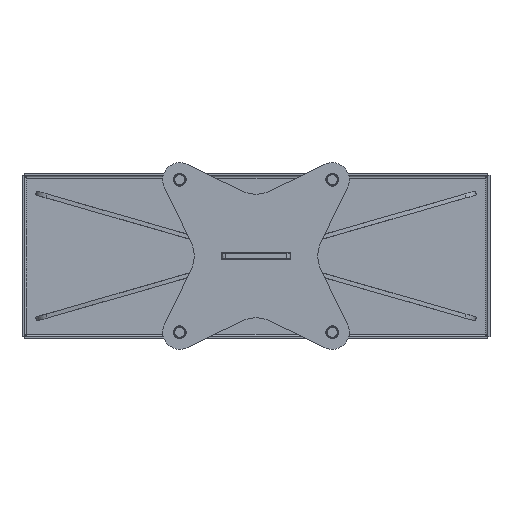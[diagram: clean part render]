
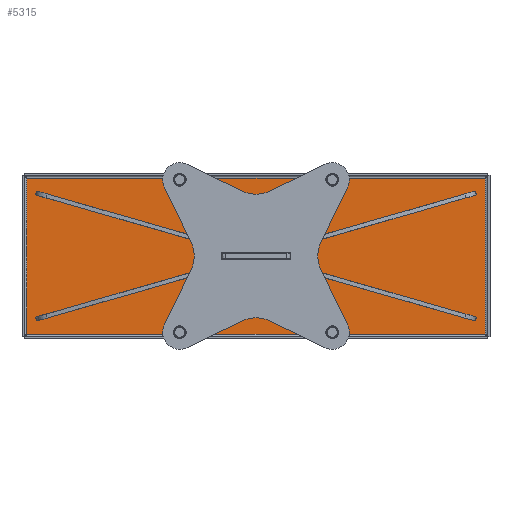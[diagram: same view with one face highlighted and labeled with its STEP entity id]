
A CAD part, front view. The second image highlights one B-rep face of the part: STEP entity #5315.
In plain terms, the highlighted planar face has unit normal (0, -1, 0).
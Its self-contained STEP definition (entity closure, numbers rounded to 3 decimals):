
#24 = CARTESIAN_POINT ( 'NONE',  ( -338., -3., 115. ) ) ;
#311 = CARTESIAN_POINT ( 'NONE',  ( 0., -3., 0. ) ) ;
#315 = VERTEX_POINT ( 'NONE', #7262 ) ;
#988 = CARTESIAN_POINT ( 'NONE',  ( 338., -3., -118.929 ) ) ;
#1934 = ORIENTED_EDGE ( 'NONE', *, *, #4103, .T. ) ;
#2110 = CARTESIAN_POINT ( 'NONE',  ( 338., -3., -115. ) ) ;
#2431 = CARTESIAN_POINT ( 'NONE',  ( -341.929, -3., -115. ) ) ;
#3448 = EDGE_LOOP ( 'NONE', ( #6229, #1934, #6773, #3727 ) ) ;
#3727 = ORIENTED_EDGE ( 'NONE', *, *, #7911, .T. ) ;
#3761 = VECTOR ( 'NONE', #6233, 1000. ) ;
#4049 = VECTOR ( 'NONE', #7963, 1000. ) ;
#4103 = EDGE_CURVE ( 'NONE', #7360, #4367, #5893, .T. ) ;
#4367 = VERTEX_POINT ( 'NONE', #2110 ) ;
#4809 = LINE ( 'NONE', #7606, #3761 ) ;
#4941 = CARTESIAN_POINT ( 'NONE',  ( -338., -3., 118.929 ) ) ;
#5159 = VECTOR ( 'NONE', #5203, 1000. ) ;
#5203 = DIRECTION ( 'NONE',  ( 1., 0., 0. ) ) ;
#5213 = LINE ( 'NONE', #988, #4049 ) ;
#5237 = CARTESIAN_POINT ( 'NONE',  ( -338., -3., -115. ) ) ;
#5315 = ADVANCED_FACE ( 'NONE', ( #8016 ), #8829, .T. ) ;
#5362 = DIRECTION ( 'NONE',  ( 0., -1., 0. ) ) ;
#5546 = DIRECTION ( 'NONE',  ( 0., 0., -1. ) ) ;
#5870 = DIRECTION ( 'NONE',  ( 0., 0., -1. ) ) ;
#5893 = LINE ( 'NONE', #2431, #5159 ) ;
#6229 = ORIENTED_EDGE ( 'NONE', *, *, #7799, .T. ) ;
#6233 = DIRECTION ( 'NONE',  ( -1., 0., 0. ) ) ;
#6773 = ORIENTED_EDGE ( 'NONE', *, *, #8018, .T. ) ;
#6917 = LINE ( 'NONE', #4941, #8567 ) ;
#6929 = AXIS2_PLACEMENT_3D ( 'NONE', #311, #5362, #5870 ) ;
#7262 = CARTESIAN_POINT ( 'NONE',  ( 338., -3., 115. ) ) ;
#7360 = VERTEX_POINT ( 'NONE', #5237 ) ;
#7606 = CARTESIAN_POINT ( 'NONE',  ( 341.929, -3., 115. ) ) ;
#7799 = EDGE_CURVE ( 'NONE', #8404, #7360, #6917, .T. ) ;
#7911 = EDGE_CURVE ( 'NONE', #315, #8404, #4809, .T. ) ;
#7963 = DIRECTION ( 'NONE',  ( 0., 0., 1. ) ) ;
#8016 = FACE_OUTER_BOUND ( 'NONE', #3448, .T. ) ;
#8018 = EDGE_CURVE ( 'NONE', #4367, #315, #5213, .T. ) ;
#8404 = VERTEX_POINT ( 'NONE', #24 ) ;
#8567 = VECTOR ( 'NONE', #5546, 1000. ) ;
#8829 = PLANE ( 'NONE',  #6929 ) ;
